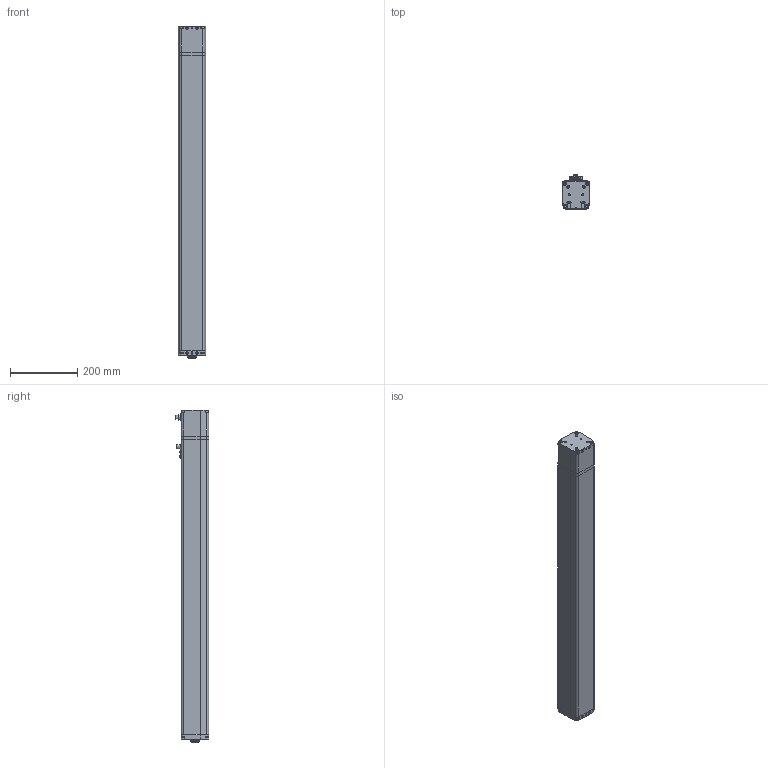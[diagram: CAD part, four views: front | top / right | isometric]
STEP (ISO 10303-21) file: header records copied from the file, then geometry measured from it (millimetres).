
FILE_DESCRIPTION (( 'STEP AP203' ), '1' );
FILE_NAME ('CTC-080-K__-____-_.step', '2023-09-29T10:09:48', ( '' ), ( '' ), 'SwSTEP 2.0', 'SolidWorks 2020', '' );
FILE_SCHEMA (( 'CONFIG_CONTROL_DESIGN' ));
Length unit declared in the file: millimetre
Products named in the file (4): CTC-080_housing_Hub_0800_Bremse; CTC-080-K__-____-_; CTC-080_Aufsatz-I_M10; CTC-080_Schubrohr_Hub 0800
Assembly tree (3 placements, depth 2):
  CTC-080-K__-____-_
    CTC-080_housing_Hub_0800_Bremse
    CTC-080_Schubrohr_Hub 0800
    CTC-080_Aufsatz-I_M10
Bounding box: 82 x 99.6 x 987 mm (x, y, z)
Volume: 5589267.1 mm3; surface area: 664120.2 mm2
Topology: 34 solids, 34 shells, 858 faces, 1912 edges, 1186 vertices
Faces by surface type: cylinder 338, plane 326, cone 102, torus 84, sphere 8
Entity records: 24154 total; most frequent: DIRECTION 4470, CARTESIAN_POINT 4156, ORIENTED_EDGE 3772, EDGE_CURVE 1886, AXIS2_PLACEMENT_3D 1768, VERTEX_POINT 1186, EDGE_LOOP 956, LINE 934
